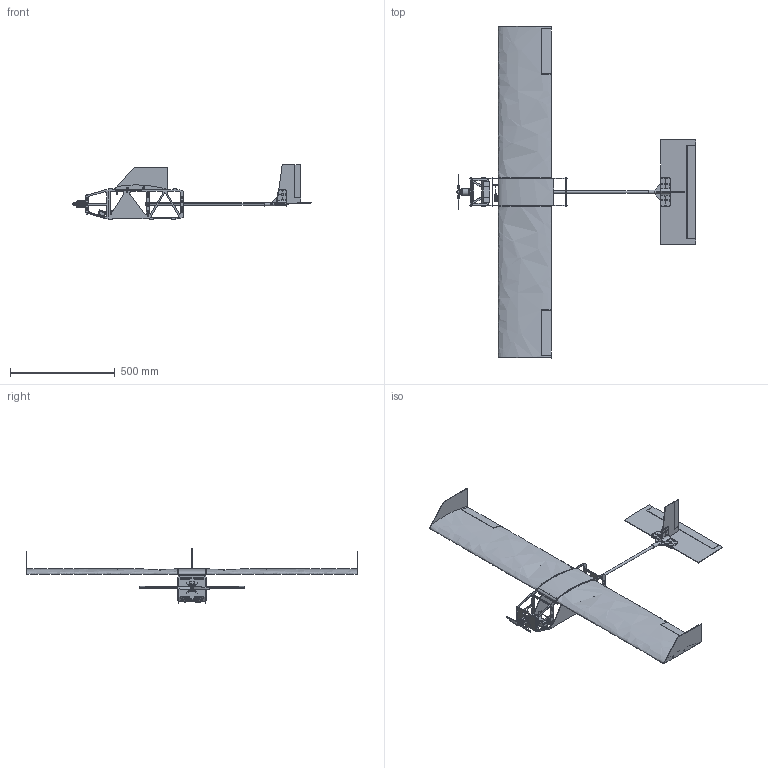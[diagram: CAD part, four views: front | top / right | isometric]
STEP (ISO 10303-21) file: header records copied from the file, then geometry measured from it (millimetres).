
FILE_DESCRIPTION(/* description */ (''),/* implementation_level */ '2;1');
FILE_NAME(/* name */ 'Aircraft Assembly v115.step',/* time_stamp */ '2023-09-02T22:03:56+03:00',/* author */ (''),/* organization */ (''),/* preprocessor_version */ 'ST-DEVELOPER v20',/* originating_system */ 'Autodesk Translation Framework v12.9.0.99',/* authorisation */ '');
FILE_SCHEMA (('AUTOMOTIVE_DESIGN { 1 0 10303 214 3 1 1 }'));
Products named in the file (30): Aircraft Assembly; Front 2; intermediate; rear 2; Side 2; Motor Mount 2; Wing cap; Front spar; Boom; Motor(165 gram); Rear Spar; Propeller (diameter=10milli)(weight=11gram); Tail connector; Horizontal Stabilizer; Vertical Stabilizer; Winglet; Winglet v5(Mirror); Wing; Wing v5(Mirror); Stopper; Battery Floor; Battery(250gram); ESC(63 gram); Door Push Mechanism; ROD; One arm Servo; SG90 - Micro Servo 9g - Tower Pro.5; SG90 - Micro Servo 9g - Tower Pro.6; One arm; SG90 - Micro Servo 9g - Tower Pro
Assembly tree (31 placements, depth 4):
  Aircraft Assembly
    Front 2
    Side 2  x2
    intermediate
    rear 2
    Motor Mount 2
    Wing cap
    Front spar
    Boom
    Motor(165 gram)
    Rear Spar
    Propeller (diameter=10milli)(weight=11gram)
    Tail connector
    Horizontal Stabilizer
    Vertical Stabilizer
    Winglet
    Winglet v5(Mirror)
    Wing
    Wing v5(Mirror)
    Stopper
    Battery Floor
    Battery(250gram)
    ESC(63 gram)
    Door Push Mechanism
      ROD
      One arm Servo
        SG90 - Micro Servo 9g - Tower Pro.5  x2
        SG90 - Micro Servo 9g - Tower Pro.6
        One arm
        SG90 - Micro Servo 9g - Tower Pro
Bounding box: 1142.94 x 1587 x 262.5 mm (x, y, z)
Volume: 7486814.1 mm3; surface area: 1808799.9 mm2
Topology: 74 solids, 407 shells, 3328 faces, 10871 edges, 7180 vertices
Faces by surface type: plane 1565, cylinder 1111, bspline 386, cone 134, torus 68, sphere 64
Full cylindrical faces by diameter (mm): 0.2 x1, 0.5 x421, 1 x3, 1.2 x8, 1.6 x3, 1.8 x4, 2 x43, 2.05 x3, 2.1 x1, 3 x6, 3.1 x1, 4.6 x1, 4.7 x4, 4.8 x2, 5 x8, 6.8 x2, 6.9 x1, 7.7 x1, 8 x3, 8.3 x1, 9.2 x1, 10 x11, 10.5 x4, 11 x1, 12 x4, 12.5 x1, 18 x1, 31 x1, 35 x2, 35.1 x1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
Entity records: 162777 total; most frequent: CARTESIAN_POINT 74976, DIRECTION 17251, ORIENTED_EDGE 17057, EDGE_CURVE 9542, VERTEX_POINT 6769, AXIS2_PLACEMENT_3D 6034, LINE 5183, VECTOR 5183
